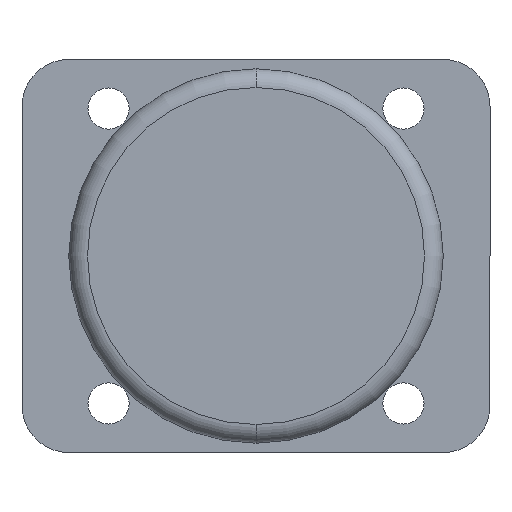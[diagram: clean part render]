
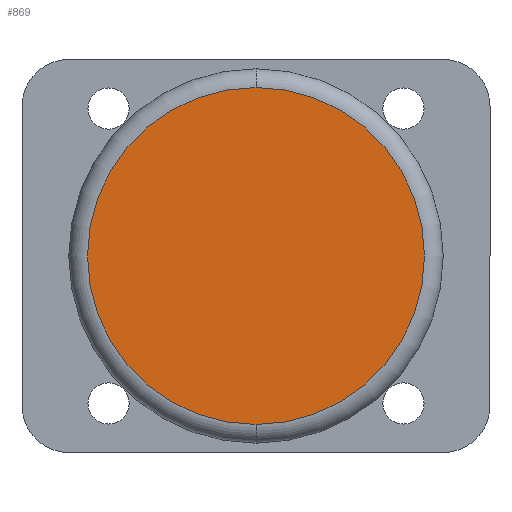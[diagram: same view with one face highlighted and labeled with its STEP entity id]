
A CAD part, front view. The second image highlights one B-rep face of the part: STEP entity #869.
In plain terms, the highlighted planar face has unit normal (0, -1, 0).
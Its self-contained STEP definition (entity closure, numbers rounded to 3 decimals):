
#3 = CARTESIAN_POINT ( 'NONE',  ( 0., 0., 0. ) ) ;
#169 = DIRECTION ( 'NONE',  ( 0., -1., 0. ) ) ;
#187 = CARTESIAN_POINT ( 'NONE',  ( 0., 0., 0. ) ) ;
#333 = CIRCLE ( 'NONE', #738, 18. ) ;
#512 = CARTESIAN_POINT ( 'NONE',  ( 0., 0., -18. ) ) ;
#525 = CARTESIAN_POINT ( 'NONE',  ( 0., 0., 18. ) ) ;
#623 = DIRECTION ( 'NONE',  ( 0., 0., -1. ) ) ;
#654 = FACE_OUTER_BOUND ( 'NONE', #762, .T. ) ;
#668 = VERTEX_POINT ( 'NONE', #525 ) ;
#738 = AXIS2_PLACEMENT_3D ( 'NONE', #1071, #1673, #623 ) ;
#762 = EDGE_LOOP ( 'NONE', ( #1621, #1811 ) ) ;
#773 = DIRECTION ( 'NONE',  ( 0., -1., 0. ) ) ;
#813 = EDGE_CURVE ( 'NONE', #1160, #668, #333, .T. ) ;
#869 = ADVANCED_FACE ( 'NONE', ( #654 ), #1556, .T. ) ;
#1071 = CARTESIAN_POINT ( 'NONE',  ( 0., 0., 0. ) ) ;
#1160 = VERTEX_POINT ( 'NONE', #512 ) ;
#1237 = AXIS2_PLACEMENT_3D ( 'NONE', #187, #169, #1819 ) ;
#1243 = DIRECTION ( 'NONE',  ( 0., 0., -1. ) ) ;
#1421 = CIRCLE ( 'NONE', #1607, 18. ) ;
#1495 = EDGE_CURVE ( 'NONE', #668, #1160, #1421, .T. ) ;
#1556 = PLANE ( 'NONE',  #1237 ) ;
#1607 = AXIS2_PLACEMENT_3D ( 'NONE', #3, #773, #1243 ) ;
#1621 = ORIENTED_EDGE ( 'NONE', *, *, #813, .T. ) ;
#1673 = DIRECTION ( 'NONE',  ( 0., -1., 0. ) ) ;
#1811 = ORIENTED_EDGE ( 'NONE', *, *, #1495, .T. ) ;
#1819 = DIRECTION ( 'NONE',  ( 0., 0., -1. ) ) ;
